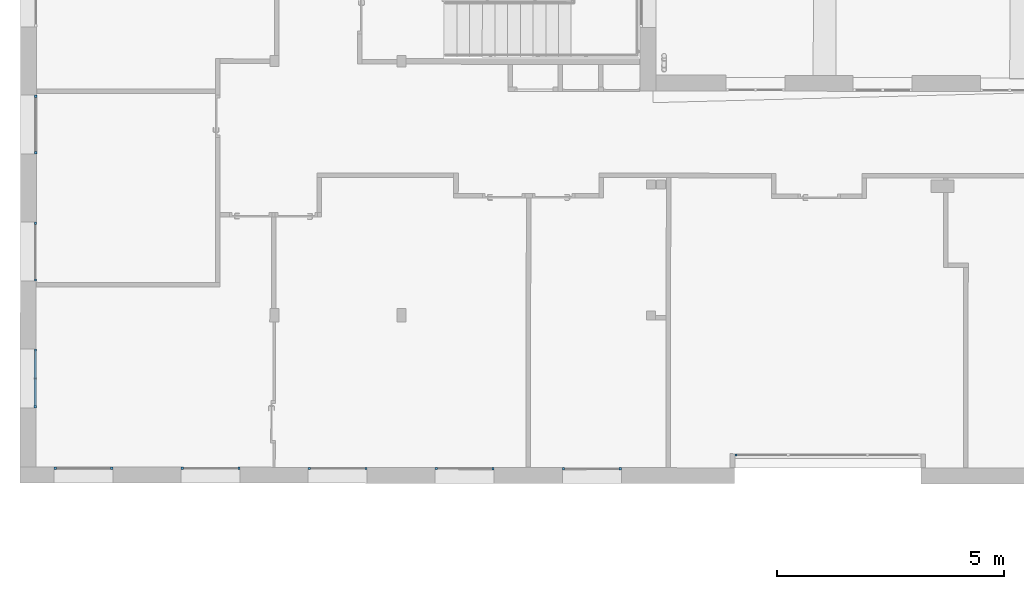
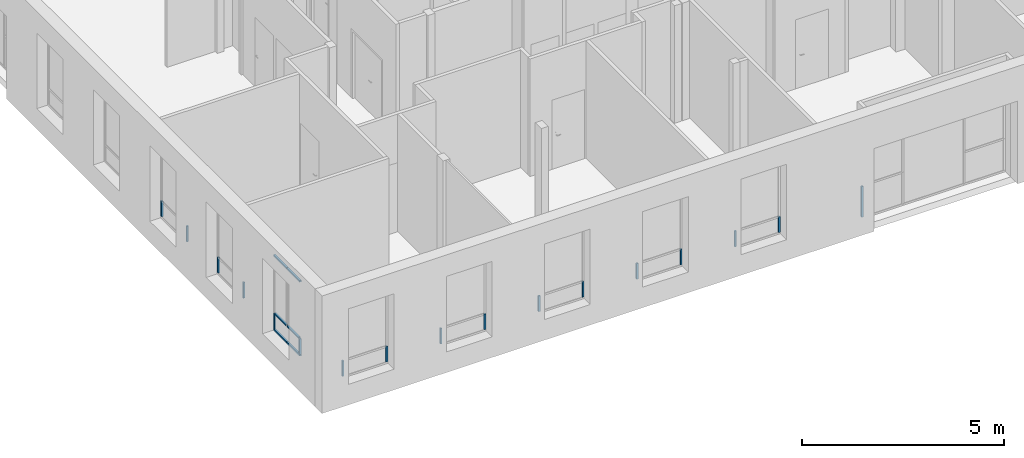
# One storey, part 20 of 101: 23 members, 9 elements without a shape of their own.
"""IFC2X3 building model written with IfcOpenShell, lengths in metres."""

from ifc_helpers import new_model, entity, si_unit, converted_unit, derived_unit, direction, frame, origin, origin_2d_with_axis, place, context, subcontext, project, spatial, rectangle, extrude, source, transform, mapped, material, type_object, type_shapes, element, aggregate, save


model = new_model("IFC2X3")

# Units and contexts
model_context = context("Model", 3, precision=1e-05, world=origin(), true_north=direction((6.123233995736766e-17, 1.0)))
body_context = subcontext(model_context, "Body", "Model", "MODEL_VIEW")
ifc_project = project(units=[si_unit("LENGTHUNIT", "METRE"), si_unit("AREAUNIT", "SQUARE_METRE"), converted_unit("PLANEANGLEUNIT", "DEGREE", entity("IfcPlaneAngleMeasure", 0.017453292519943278), si_unit("PLANEANGLEUNIT", "RADIAN"), dimensions=[0, 0, 0, 0, 0, 0, 0]), derived_unit("THERMALTRANSMITTANCEUNIT", [(si_unit("MASSUNIT", "GRAM", prefix="KILO"), 1), (si_unit("THERMODYNAMICTEMPERATUREUNIT", "KELVIN"), -1), (si_unit("TIMEUNIT", "SECOND"), -3)])], contexts=[model_context])

# Site, building, storey
site_placement = place(None, frame((1253.6752467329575, 2072.143113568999, 91.49999999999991), z_axis=(0.0, 0.0, 1.0), x_axis=(0.7237211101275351, 0.6900925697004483, 0.0)))
site = spatial("IfcSite", under=ifc_project, at=site_placement, Name="Surface", CompositionType="ELEMENT")
building_placement = place(site_placement, origin())
building = spatial("IfcBuilding", under=site, at=building_placement, CompositionType="ELEMENT")
storey_placement = place(building_placement, origin())
storey = spatial("IfcBuildingStorey", under=building, at=storey_placement, Name="0- Rdc", CompositionType="ELEMENT", Elevation=-5.764692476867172e-13)

# Curtain wall, member
curtain_wall_type = type_object("IfcCurtainWallType", Name="Mur-rideau:Menuiserie Ext 1F+1OB VERTIC", PredefinedType="NOTDEFINED")
curtain_wall_1_placement = place(storey_placement, origin())
curtain_wall_1 = element("IfcCurtainWall", 1, at=curtain_wall_1_placement, inside=storey, type_object=curtain_wall_type, Name="Mur-rideau:Menuiserie Ext 1F+1OB VERTIC", ObjectType="Mur-rideau:Menuiserie Ext 1F+1OB VERTIC")
ifc_material = material(Name="OMD_Aluminium Men Ext")
member_type_1 = type_object("IfcMemberType", Name="Meneau rectangulaire:50x50", PredefinedType="MULLION", material=ifc_material)
shared_shape_1 = source(origin(), body_context, "Body", "SweptSolid", [
    extrude(rectangle(XDim=0.05, YDim=0.049999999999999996, at=origin_2d_with_axis()), frame((-0.025, 0.0, -0.4699999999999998), z_axis=(0.0, 0.0, 1.0), x_axis=(-1.0, 0.0, 0.0)), (0.0, 0.0, 1.0), 0.4699999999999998),
])
type_shapes(member_type_1, [shared_shape_1])
member_1_placement = place(curtain_wall_1_placement, frame((152.6005365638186, -3.756054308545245, 0.6699999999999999), z_axis=(0.0, 0.0, -1.0), x_axis=(-0.7228702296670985, 0.6909838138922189, 0.0)))
member_1 = element("IfcMember", 2, at=member_1_placement, type_object=member_type_1, material=ifc_material, Name="Meneau rectangulaire:50x50", ObjectType="Meneau rectangulaire:50x50", context=body_context, shape_type="MappedRepresentation", body=[
    mapped(shared_shape_1, transform((0.0, 0.0, 0.0), scale=1.0)),
])

curtain_wall_2_placement = place(storey_placement, origin())
curtain_wall_2 = element("IfcCurtainWall", 3, at=curtain_wall_2_placement, inside=storey, type_object=curtain_wall_type, Name="Mur-rideau:Menuiserie Ext 1F+1OB VERTIC", ObjectType="Mur-rideau:Menuiserie Ext 1F+1OB VERTIC")
member_2_placement = place(curtain_wall_2_placement, frame((150.57649992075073, -1.8212996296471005, 0.6699999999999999), z_axis=(0.0, 0.0, -1.0), x_axis=(-0.7228702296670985, 0.6909838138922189, 0.0)))
member_2 = element("IfcMember", 4, at=member_2_placement, type_object=member_type_1, material=ifc_material, Name="Meneau rectangulaire:50x50", ObjectType="Meneau rectangulaire:50x50", context=body_context, shape_type="MappedRepresentation", body=[
    mapped(shared_shape_1, transform((0.0, 0.0, 0.0), scale=1.0)),
])

curtain_wall_3_placement = place(storey_placement, origin())
curtain_wall_3 = element("IfcCurtainWall", 5, at=curtain_wall_3_placement, inside=storey, type_object=curtain_wall_type, Name="Mur-rideau:Menuiserie Ext 1F+1OB VERTIC", ObjectType="Mur-rideau:Menuiserie Ext 1F+1OB VERTIC")
member_3_placement = place(curtain_wall_3_placement, frame((148.5524632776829, 0.11345504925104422, 0.6699999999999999), z_axis=(0.0, 0.0, -1.0), x_axis=(-0.7228702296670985, 0.6909838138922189, 0.0)))
member_3 = element("IfcMember", 6, at=member_3_placement, type_object=member_type_1, material=ifc_material, Name="Meneau rectangulaire:50x50", ObjectType="Meneau rectangulaire:50x50", context=body_context, shape_type="MappedRepresentation", body=[
    mapped(shared_shape_1, transform((0.0, 0.0, 0.0), scale=1.0)),
])

curtain_wall_4_placement = place(storey_placement, origin())
curtain_wall_4 = element("IfcCurtainWall", 7, at=curtain_wall_4_placement, inside=storey, type_object=curtain_wall_type, Name="Mur-rideau:Menuiserie Ext 1F+1OB VERTIC", ObjectType="Mur-rideau:Menuiserie Ext 1F+1OB VERTIC")
member_4_placement = place(curtain_wall_4_placement, frame((146.5281144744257, 2.048508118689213, 0.6699999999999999), z_axis=(0.0, 0.0, -1.0), x_axis=(-0.7228702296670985, 0.6909838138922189, 0.0)))
member_4 = element("IfcMember", 8, at=member_4_placement, type_object=member_type_1, material=ifc_material, Name="Meneau rectangulaire:50x50", ObjectType="Meneau rectangulaire:50x50", context=body_context, shape_type="MappedRepresentation", body=[
    mapped(shared_shape_1, transform((0.0, 0.0, 0.0), scale=1.0)),
])

curtain_wall_5_placement = place(storey_placement, origin())
curtain_wall_5 = element("IfcCurtainWall", 9, at=curtain_wall_5_placement, inside=storey, type_object=curtain_wall_type, Name="Mur-rideau:Menuiserie Ext 1F+1OB VERTIC", ObjectType="Mur-rideau:Menuiserie Ext 1F+1OB VERTIC")
member_5_placement = place(curtain_wall_5_placement, frame((144.50438999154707, 3.9829644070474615, 0.6699999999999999), z_axis=(0.0, 0.0, -1.0), x_axis=(-0.7228702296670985, 0.6909838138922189, 0.0)))
member_5 = element("IfcMember", 10, at=member_5_placement, type_object=member_type_1, material=ifc_material, Name="Meneau rectangulaire:50x50", ObjectType="Meneau rectangulaire:50x50", context=body_context, shape_type="MappedRepresentation", body=[
    mapped(shared_shape_1, transform((0.0, 0.0, 0.0), scale=1.0)),
])

curtain_wall_6_placement = place(storey_placement, origin())
curtain_wall_6 = element("IfcCurtainWall", 11, at=curtain_wall_6_placement, inside=storey, type_object=curtain_wall_type, Name="Mur-rideau:Menuiserie Ext 1F+1OB VERTIC", ObjectType="Mur-rideau:Menuiserie Ext 1F+1OB VERTIC")
member_6_placement = place(curtain_wall_6_placement, frame((146.02021282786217, 6.166797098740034, 0.6699999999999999), z_axis=(0.0, 0.0, -1.0), x_axis=(0.6911544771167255, 0.7227070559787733, 0.0)))
member_6 = element("IfcMember", 12, at=member_6_placement, type_object=member_type_1, material=ifc_material, Name="Meneau rectangulaire:50x50", ObjectType="Meneau rectangulaire:50x50", context=body_context, shape_type="MappedRepresentation", body=[
    mapped(shared_shape_1, transform((0.0, 0.0, 0.0), scale=1.0)),
])

curtain_wall_7_placement = place(storey_placement, origin())
curtain_wall_7 = element("IfcCurtainWall", 13, at=curtain_wall_7_placement, inside=storey, type_object=curtain_wall_type, Name="Mur-rideau:Menuiserie Ext 1F+1OB VERTIC", ObjectType="Mur-rideau:Menuiserie Ext 1F+1OB VERTIC")
member_7_placement = place(curtain_wall_7_placement, frame((147.9515125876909, 8.187219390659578, 0.6699999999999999), z_axis=(0.0, 0.0, -1.0), x_axis=(0.6911544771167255, 0.7227070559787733, 0.0)))
member_7 = element("IfcMember", 14, at=member_7_placement, type_object=member_type_1, material=ifc_material, Name="Meneau rectangulaire:50x50", ObjectType="Meneau rectangulaire:50x50", context=body_context, shape_type="MappedRepresentation", body=[
    mapped(shared_shape_1, transform((0.0, 0.0, 0.0), scale=1.0)),
])

curtain_wall_8_placement = place(storey_placement, origin())
curtain_wall_8 = element("IfcCurtainWall", 15, at=curtain_wall_8_placement, inside=storey, type_object=curtain_wall_type, Name="Mur-rideau:Menuiserie Ext 1F+1OB VERTIC", ObjectType="Mur-rideau:Menuiserie Ext 1F+1OB VERTIC")
member_8_placement = place(curtain_wall_8_placement, frame((149.8862672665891, 10.21125603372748, 0.6699999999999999), z_axis=(0.0, 0.0, -1.0), x_axis=(0.6911544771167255, 0.7227070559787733, 0.0)))
member_8 = element("IfcMember", 16, at=member_8_placement, type_object=member_type_1, material=ifc_material, Name="Meneau rectangulaire:50x50", ObjectType="Meneau rectangulaire:50x50", context=body_context, shape_type="MappedRepresentation", body=[
    mapped(shared_shape_1, transform((0.0, 0.0, 0.0), scale=1.0)),
])

# Member
member_type_2 = type_object("IfcMemberType", Name="Meneau rectangulaire:50x50", PredefinedType="MULLION", material=ifc_material)
shared_shape_2 = source(origin(), body_context, "Body", "SweptSolid", [
    extrude(rectangle(XDim=0.05, YDim=0.049999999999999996, at=origin_2d_with_axis()), frame((-0.025, 0.0, -0.4699999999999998), z_axis=(0.0, 0.0, 1.0), x_axis=(-1.0, 0.0, 0.0)), (0.0, 0.0, 1.0), 0.4699999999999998),
])
type_shapes(member_type_2, [shared_shape_2])
member_9_placement = place(curtain_wall_1_placement, frame((153.54004803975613, -4.654123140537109, 1.14), z_axis=(0.0, 0.0, 1.0), x_axis=(0.7228702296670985, -0.6909838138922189, 0.0)))
member_9 = element("IfcMember", 17, at=member_9_placement, type_object=member_type_2, material=ifc_material, Name="Meneau rectangulaire:50x50", ObjectType="Meneau rectangulaire:50x50", context=body_context, shape_type="MappedRepresentation", body=[
    mapped(shared_shape_2, transform((0.0, 0.0, 0.0), scale=1.0)),
])

aggregate(curtain_wall_1, [member_1, member_9])

member_10_placement = place(curtain_wall_2_placement, frame((151.51601139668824, -2.7193684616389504, 1.14), z_axis=(0.0, 0.0, 1.0), x_axis=(0.7228702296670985, -0.6909838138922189, 0.0)))
member_10 = element("IfcMember", 18, at=member_10_placement, type_object=member_type_2, material=ifc_material, Name="Meneau rectangulaire:50x50", ObjectType="Meneau rectangulaire:50x50", context=body_context, shape_type="MappedRepresentation", body=[
    mapped(shared_shape_2, transform((0.0, 0.0, 0.0), scale=1.0)),
])

aggregate(curtain_wall_2, [member_2, member_10])

member_11_placement = place(curtain_wall_3_placement, frame((149.4919747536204, -0.7846137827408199, 1.14), z_axis=(0.0, 0.0, 1.0), x_axis=(0.7228702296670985, -0.6909838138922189, 0.0)))
member_11 = element("IfcMember", 19, at=member_11_placement, type_object=member_type_2, material=ifc_material, Name="Meneau rectangulaire:50x50", ObjectType="Meneau rectangulaire:50x50", context=body_context, shape_type="MappedRepresentation", body=[
    mapped(shared_shape_2, transform((0.0, 0.0, 0.0), scale=1.0)),
])

aggregate(curtain_wall_3, [member_3, member_11])

member_12_placement = place(curtain_wall_4_placement, frame((147.46762595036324, 1.1504392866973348, 1.14), z_axis=(0.0, 0.0, 1.0), x_axis=(0.7228702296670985, -0.6909838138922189, 0.0)))
member_12 = element("IfcMember", 20, at=member_12_placement, type_object=member_type_2, material=ifc_material, Name="Meneau rectangulaire:50x50", ObjectType="Meneau rectangulaire:50x50", context=body_context, shape_type="MappedRepresentation", body=[
    mapped(shared_shape_2, transform((0.0, 0.0, 0.0), scale=1.0)),
])

aggregate(curtain_wall_4, [member_4, member_12])

member_13_placement = place(curtain_wall_5_placement, frame((145.44390146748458, 3.0848955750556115, 1.14), z_axis=(0.0, 0.0, 1.0), x_axis=(0.7228702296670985, -0.6909838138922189, 0.0)))
member_13 = element("IfcMember", 21, at=member_13_placement, type_object=member_type_2, material=ifc_material, Name="Meneau rectangulaire:50x50", ObjectType="Meneau rectangulaire:50x50", context=body_context, shape_type="MappedRepresentation", body=[
    mapped(shared_shape_2, transform((0.0, 0.0, 0.0), scale=1.0)),
])

aggregate(curtain_wall_5, [member_5, member_13])

member_14_placement = place(curtain_wall_6_placement, frame((145.1219221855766, 5.22749769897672, 1.14), z_axis=(0.0, 0.0, 1.0), x_axis=(-0.6911544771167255, -0.7227070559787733, 0.0)))
member_14 = element("IfcMember", 22, at=member_14_placement, type_object=member_type_2, material=ifc_material, Name="Meneau rectangulaire:50x50", ObjectType="Meneau rectangulaire:50x50", context=body_context, shape_type="MappedRepresentation", body=[
    mapped(shared_shape_2, transform((0.0, 0.0, 0.0), scale=1.0)),
])

member_15_placement = place(curtain_wall_7_placement, frame((147.0532219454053, 7.247919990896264, 1.14), z_axis=(0.0, 0.0, 1.0), x_axis=(-0.6911544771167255, -0.7227070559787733, 0.0)))
member_15 = element("IfcMember", 23, at=member_15_placement, type_object=member_type_2, material=ifc_material, Name="Meneau rectangulaire:50x50", ObjectType="Meneau rectangulaire:50x50", context=body_context, shape_type="MappedRepresentation", body=[
    mapped(shared_shape_2, transform((0.0, 0.0, 0.0), scale=1.0)),
])

aggregate(curtain_wall_7, [member_7, member_15])

member_16_placement = place(curtain_wall_8_placement, frame((148.98797662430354, 9.271956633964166, 1.14), z_axis=(0.0, 0.0, 1.0), x_axis=(-0.6911544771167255, -0.7227070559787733, 0.0)))
member_16 = element("IfcMember", 24, at=member_16_placement, type_object=member_type_2, material=ifc_material, Name="Meneau rectangulaire:50x50", ObjectType="Meneau rectangulaire:50x50", context=body_context, shape_type="MappedRepresentation", body=[
    mapped(shared_shape_2, transform((0.0, 0.0, 0.0), scale=1.0)),
])

aggregate(curtain_wall_8, [member_8, member_16])

member_type_3 = type_object("IfcMemberType", Name="Meneau rectangulaire:50x50", PredefinedType="MULLION", material=ifc_material)
shared_shape_3 = source(origin(), body_context, "Body", "SweptSolid", [
    extrude(rectangle(XDim=0.05, YDim=0.05, at=origin_2d_with_axis()), frame((-0.025, 0.0, -0.6498479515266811), z_axis=(0.0, 0.0, 1.0), x_axis=(-1.0, 0.0, 0.0)), (0.0, 0.0, 1.0), 0.6498479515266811),
])
type_shapes(member_type_3, [shared_shape_3])
member_17_placement = place(curtain_wall_6_placement, frame((145.12192218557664, 5.22749769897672, 0.62), z_axis=(-0.6911544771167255, -0.7227070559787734, 0.0), x_axis=(0.0, 0.0, -1.0)))
member_17 = element("IfcMember", 25, at=member_17_placement, type_object=member_type_3, material=ifc_material, Name="Meneau rectangulaire:50x50", ObjectType="Meneau rectangulaire:50x50", context=body_context, shape_type="MappedRepresentation", body=[
    mapped(shared_shape_3, transform((0.0, 0.0, 0.0), scale=1.0)),
])

member_type_4 = type_object("IfcMemberType", Name="Meneau rectangulaire:50x50", PredefinedType="MULLION", material=ifc_material)
shared_shape_4 = source(origin(), body_context, "Body", "SweptSolid", [
    extrude(rectangle(XDim=0.05, YDim=0.05, at=origin_2d_with_axis()), frame((-0.025, 0.0, -0.6498479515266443), z_axis=(0.0, 0.0, 1.0), x_axis=(-1.0, 0.0, 0.0)), (0.0, 0.0, 1.0), 0.64984795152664),
])
type_shapes(member_type_4, [shared_shape_4])
member_18_placement = place(curtain_wall_6_placement, frame((145.57106750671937, 5.697147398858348, 0.62), z_axis=(-0.691154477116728, -0.722707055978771, 0.0), x_axis=(0.0, 0.0, -1.0)))
member_18 = element("IfcMember", 26, at=member_18_placement, type_object=member_type_4, material=ifc_material, Name="Meneau rectangulaire:50x50", ObjectType="Meneau rectangulaire:50x50", context=body_context, shape_type="MappedRepresentation", body=[
    mapped(shared_shape_4, transform((0.0, 0.0, 0.0), scale=1.0)),
])

member_type_5 = type_object("IfcMemberType", Name="Meneau rectangulaire:50x50", PredefinedType="MULLION", material=ifc_material)
shared_shape_5 = source(origin(), body_context, "Body", "SweptSolid", [
    extrude(rectangle(XDim=0.05, YDim=0.049999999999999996, at=origin_2d_with_axis()), frame((-0.025, 0.0, -0.6498479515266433), z_axis=(0.0, 0.0, 1.0), x_axis=(-1.0, 0.0, 0.0)), (0.0, 0.0, 1.0), 0.6498479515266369),
])
type_shapes(member_type_5, [shared_shape_5])
member_19_placement = place(curtain_wall_6_placement, frame((146.02021282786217, 6.166797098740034, 2.8999999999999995), z_axis=(0.6911544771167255, 0.7227070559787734, 0.0), x_axis=(0.0, 0.0, 1.0)))
member_19 = element("IfcMember", 27, at=member_19_placement, type_object=member_type_5, material=ifc_material, Name="Meneau rectangulaire:50x50", ObjectType="Meneau rectangulaire:50x50", context=body_context, shape_type="MappedRepresentation", body=[
    mapped(shared_shape_5, transform((0.0, 0.0, 0.0), scale=1.0)),
])

member_type_6 = type_object("IfcMemberType", Name="Meneau rectangulaire:50x50", PredefinedType="MULLION", material=ifc_material)
shared_shape_6 = source(origin(), body_context, "Body", "SweptSolid", [
    extrude(rectangle(XDim=0.05, YDim=0.05, at=origin_2d_with_axis()), frame((0.0, 0.0, -0.5748479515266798), z_axis=(0.0, 0.0, 1.0), x_axis=(-1.0, 0.0, 0.0)), (0.0, 0.0, 1.0), 0.5748479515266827),
])
type_shapes(member_type_6, [shared_shape_6])
member_20_placement = place(curtain_wall_6_placement, frame((145.5537886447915, 5.67907972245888, 1.14), z_axis=(0.6911544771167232, 0.7227070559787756, 0.0), x_axis=(0.0, 0.0, 1.0)))
member_20 = element("IfcMember", 28, at=member_20_placement, type_object=member_type_6, material=ifc_material, Name="Meneau rectangulaire:50x50", ObjectType="Meneau rectangulaire:50x50", context=body_context, shape_type="MappedRepresentation", body=[
    mapped(shared_shape_6, transform((0.0, 0.0, 0.0), scale=1.0)),
])

member_21_placement = place(curtain_wall_6_placement, frame((145.98565510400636, 6.130661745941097, 1.14), z_axis=(0.691154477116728, 0.722707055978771, 0.0), x_axis=(0.0, 0.0, 1.0)))
member_21 = element("IfcMember", 29, at=member_21_placement, type_object=member_type_6, material=ifc_material, Name="Meneau rectangulaire:50x50", ObjectType="Meneau rectangulaire:50x50", context=body_context, shape_type="MappedRepresentation", body=[
    mapped(shared_shape_6, transform((0.0, 0.0, 0.0), scale=1.0)),
])

member_type_7 = type_object("IfcMemberType", Name="Meneau rectangulaire:50x50", PredefinedType="MULLION", material=ifc_material)
shared_shape_7 = source(origin(), body_context, "Body", "SweptSolid", [
    extrude(rectangle(XDim=0.05, YDim=0.05000000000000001, at=origin_2d_with_axis()), frame((-0.025, 0.0, -0.6498479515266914), z_axis=(0.0, 0.0, 1.0), x_axis=(-1.0, 0.0, 0.0)), (0.0, 0.0, 1.0), 0.6498479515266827),
])
type_shapes(member_type_7, [shared_shape_7])
member_22_placement = place(curtain_wall_6_placement, frame((145.57106750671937, 5.697147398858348, 2.8999999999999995), z_axis=(0.6911544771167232, 0.7227070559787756, 0.0), x_axis=(0.0, 0.0, 1.0)))
member_22 = element("IfcMember", 30, at=member_22_placement, type_object=member_type_7, material=ifc_material, Name="Meneau rectangulaire:50x50", ObjectType="Meneau rectangulaire:50x50", context=body_context, shape_type="MappedRepresentation", body=[
    mapped(shared_shape_7, transform((0.0, 0.0, 0.0), scale=1.0)),
])

aggregate(curtain_wall_6, [member_19, member_17, member_6, member_14, member_20, member_22, member_18, member_21])

# Curtain wall, member
curtain_wall_9_placement = place(storey_placement, origin())
curtain_wall_9 = element("IfcCurtainWall", 31, at=curtain_wall_9_placement, inside=storey, type_object=curtain_wall_type, Name="Mur-rideau:Menuiserie Ext 1F+1OB VERTIC", ObjectType="Mur-rideau:Menuiserie Ext 1F+1OB VERTIC")
member_type_8 = type_object("IfcMemberType", Name="Meneau rectangulaire:50x50", PredefinedType="MULLION", material=ifc_material)
shared_shape_8 = source(origin(), body_context, "Body", "SweptSolid", [
    extrude(rectangle(XDim=0.05, YDim=0.049999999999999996, at=origin_2d_with_axis()), frame((-0.025, 0.0, -0.9249999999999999), z_axis=(0.0, 0.0, 1.0), x_axis=(-1.0, 0.0, 0.0)), (0.0, 0.0, 1.0), 0.9249999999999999),
])
type_shapes(member_type_8, [shared_shape_8])
member_23_placement = place(curtain_wall_9_placement, frame((155.5614285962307, -6.157492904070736, 0.05), z_axis=(0.0, 0.0, -1.0), x_axis=(-0.7228702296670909, 0.6909838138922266, 0.0)))
member_23 = element("IfcMember", 32, at=member_23_placement, type_object=member_type_8, material=ifc_material, Name="Meneau rectangulaire:50x50", ObjectType="Meneau rectangulaire:50x50", context=body_context, shape_type="MappedRepresentation", body=[
    mapped(shared_shape_8, transform((0.0, 0.0, 0.0), scale=1.0)),
])
aggregate(curtain_wall_9, [member_23])

save(model, "model.ifc")
